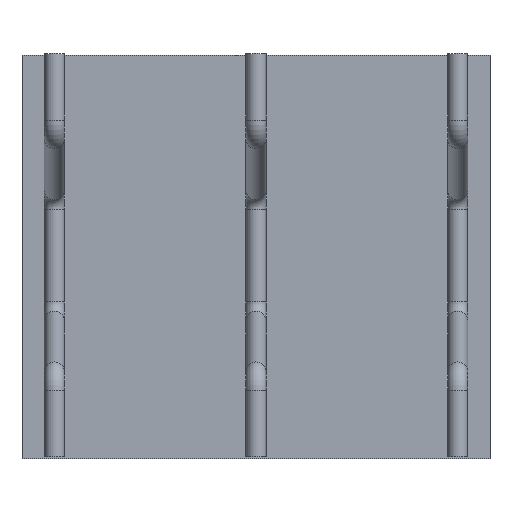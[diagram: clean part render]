
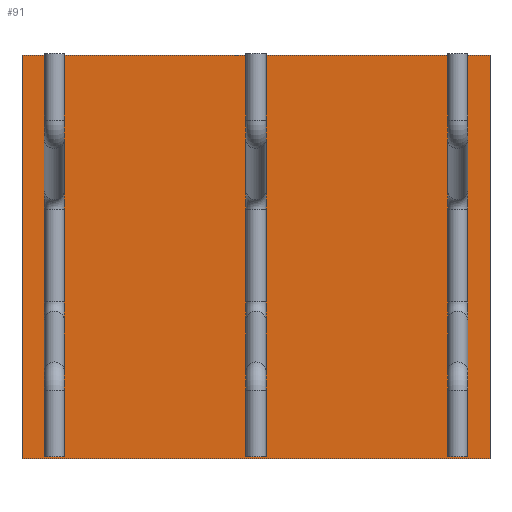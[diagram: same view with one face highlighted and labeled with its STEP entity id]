
A CAD part, top view. The second image highlights one B-rep face of the part: STEP entity #91.
In plain terms, the highlighted planar face has unit normal (0, 0, 1).
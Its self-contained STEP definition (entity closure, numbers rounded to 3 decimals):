
#52=CARTESIAN_POINT('Axis2P3D Location',(0.,0.,0.)) ;
#57=CARTESIAN_POINT('Line Origine',(0.,500.,0.)) ;
#61=CARTESIAN_POINT('Vertex',(580.,500.,0.)) ;
#63=CARTESIAN_POINT('Vertex',(-580.,500.,0.)) ;
#66=CARTESIAN_POINT('Line Origine',(-580.,0.,0.)) ;
#70=CARTESIAN_POINT('Vertex',(-580.,-500.,0.)) ;
#73=CARTESIAN_POINT('Line Origine',(0.,-500.,0.)) ;
#77=CARTESIAN_POINT('Vertex',(580.,-500.,0.)) ;
#80=CARTESIAN_POINT('Line Origine',(580.,0.,0.)) ;
#53=DIRECTION('Axis2P3D Direction',(0.,0.,1.)) ;
#54=DIRECTION('Axis2P3D XDirection',(1.,0.,0.)) ;
#58=DIRECTION('Vector Direction',(1.,0.,0.)) ;
#67=DIRECTION('Vector Direction',(0.,1.,0.)) ;
#74=DIRECTION('Vector Direction',(-1.,0.,0.)) ;
#81=DIRECTION('Vector Direction',(0.,-1.,0.)) ;
#55=AXIS2_PLACEMENT_3D('Plane Axis2P3D',#52,#53,#54) ;
#86=ORIENTED_EDGE('',*,*,#65,.T.) ;
#87=ORIENTED_EDGE('',*,*,#72,.T.) ;
#88=ORIENTED_EDGE('',*,*,#79,.T.) ;
#89=ORIENTED_EDGE('',*,*,#84,.T.) ;
#59=VECTOR('Line Direction',#58,1.) ;
#68=VECTOR('Line Direction',#67,1.) ;
#75=VECTOR('Line Direction',#74,1.) ;
#82=VECTOR('Line Direction',#81,1.) ;
#91=ADVANCED_FACE('Fill.1',(#90),#56,.T.) ;
#65=EDGE_CURVE('',#62,#64,#60,.F.) ;
#72=EDGE_CURVE('',#64,#71,#69,.F.) ;
#79=EDGE_CURVE('',#71,#78,#76,.F.) ;
#84=EDGE_CURVE('',#78,#62,#83,.F.) ;
#85=EDGE_LOOP('',(#86,#87,#88,#89)) ;
#90=FACE_OUTER_BOUND('',#85,.T.) ;
#60=LINE('Line',#57,#59) ;
#69=LINE('Line',#66,#68) ;
#76=LINE('Line',#73,#75) ;
#83=LINE('Line',#80,#82) ;
#56=PLANE('',#55) ;
#62=VERTEX_POINT('',#61) ;
#64=VERTEX_POINT('',#63) ;
#71=VERTEX_POINT('',#70) ;
#78=VERTEX_POINT('',#77) ;
